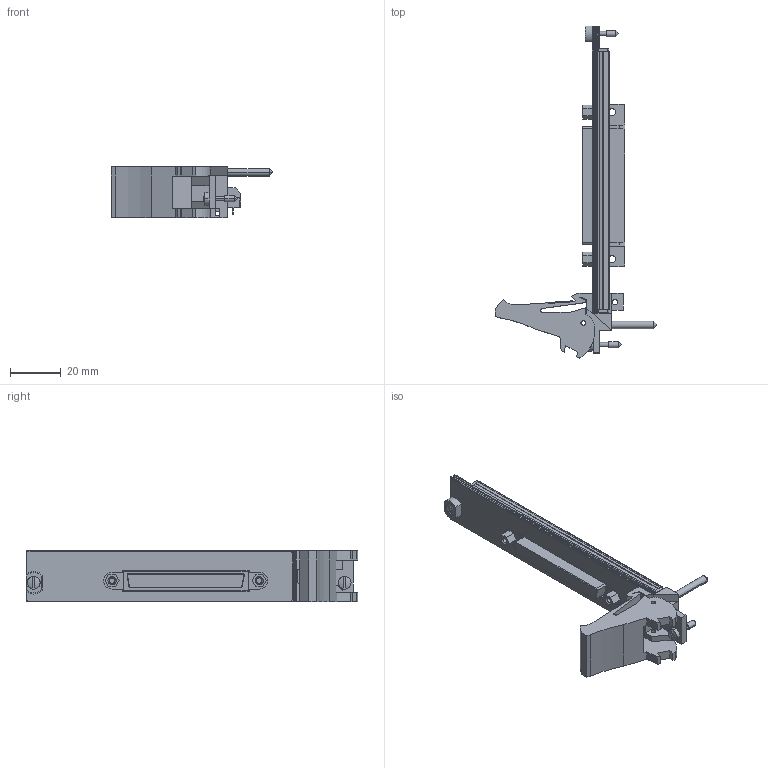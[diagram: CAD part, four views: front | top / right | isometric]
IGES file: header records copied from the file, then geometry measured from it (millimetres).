
Start section:  PTC IGES file: cu_pxi-8430_8.igs
Global section: file name: cu_pxi-8430_8.igs; native system: Pro/ENGINEER by Parametric Technology Corporation; preprocessor: 2011490; author: talbott; organization: Unknown; date: 20130716.143609; units: inch
Bounding box: 63.53 x 130.62 x 20.24 mm (x, y, z)
Surface area: 17908.1 mm2 (no closed solid volume)
Topology: 0 solids, 0 shells, 362 faces, 1982 edges, 1978 vertices
Faces by surface type: bspline 229, revolution 133
